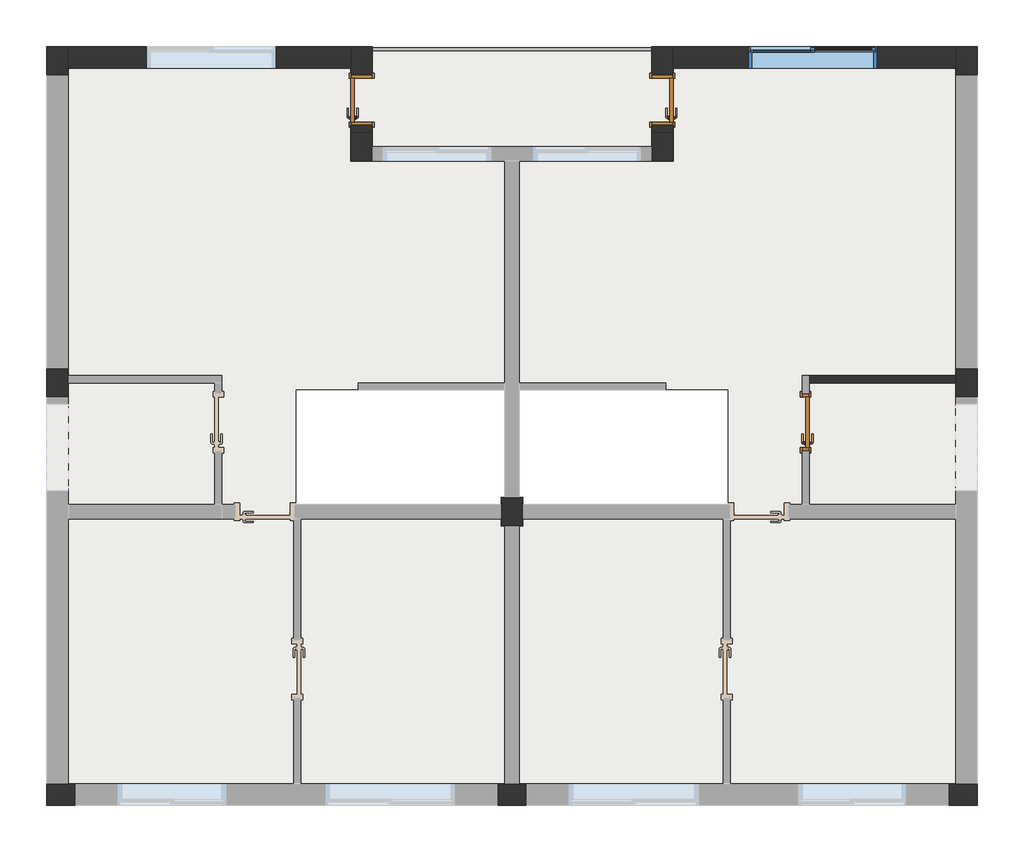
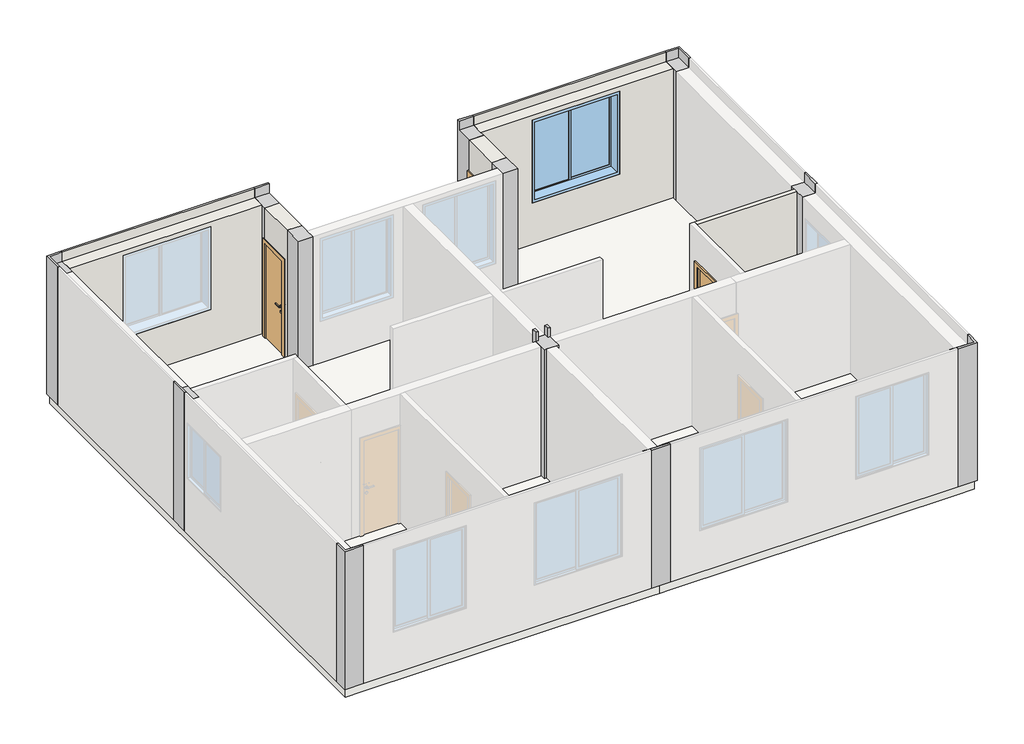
# One storey, part 2 of 2: 12 columns, 5 walls, 3 doors, 1 railing, 1 slab, 1 window.
"""IFC4 building model written with IfcOpenShell, lengths in millimetres."""

from ifc_helpers import new_model, si_unit, point, frame, frame_2d, origin, place, context, project, spatial, polyline, circle_curve, trimmed, segment, composite_curve, outline, extrude, faceted_brep, transform, mapped, element, save
from components import m1_5c1b1160, m4_53e74651, m4_2c85f747, c3_8dbe8f69

model = new_model("IFC4")

# Units and contexts
model_context = context("Model", 3, world=origin())
ifc_project = project(units=[si_unit("LENGTHUNIT", "METRE", prefix="MILLI")], contexts=[model_context])

# Site, building, storey
site = spatial("IfcSite", under=ifc_project)
building = spatial("IfcBuilding", under=site)
storey = spatial("IfcBuildingStorey", under=building, Name="标高 2", Elevation=3000.0)

# Columns
placement = place(None, origin())
element("IfcColumn", 1, ObjectType="混凝土 - 矩形 - 柱 : Z1", at=placement, inside=storey, context=model_context, shape_type="Brep", body=[
    faceted_brep([(-8339.5311174, -4969.5294667, 3000.0), (-8039.5311174, -4969.5294667, 3000.0), (-7939.5311174, -4969.5294667, 3000.0), (-7939.5311174, -5269.5294667, 3000.0), (-8339.5311174, -5269.5294667, 3000.0), (-8339.5311174, -4969.5294667, 6000.0), (-8299.5311174, -4969.5294667, 6000.0), (-8299.5311174, -4969.5294667, 5800.0), (-8039.5311174, -4969.5294667, 5800.0), (-7939.5311174, -4969.5294667, 5800.0), (-7939.5311174, -5229.5294667, 5800.0), (-7939.5311174, -5229.5294667, 6000.0), (-7939.5311174, -5269.5294667, 6000.0), (-8339.5311174, -5269.5294667, 6000.0), (-8299.5311174, -5229.5294667, 6000.0), (-8299.5311174, -5229.5294667, 5800.0)], [[[0, 1, 2, 3, 4]], [[2, 1, 0, 5, 6, 7, 8, 9]], [[3, 2, 9, 10, 11, 12]], [[4, 3, 12, 13]], [[0, 4, 13, 5]], [[13, 12, 11, 14, 6, 5]], [[7, 15, 10, 9, 8]], [[15, 14, 11, 10]], [[14, 15, 7, 6]]]),
])
element("IfcColumn", 2, ObjectType="混凝土 - 矩形 - 柱 : Z1", at=placement, inside=storey, context=model_context, shape_type="Brep", body=[
    faceted_brep([(-8039.5311174, 5330.4705333, 3000.0), (-8039.5311174, 4930.4705333, 3000.0), (-8339.5311174, 4930.4705333, 3000.0), (-8339.5311174, 5330.4705333, 3000.0), (-8039.5311174, 5330.4705333, 6000.0), (-8039.5311174, 5290.4705333, 6000.0), (-8039.5311174, 5290.4705333, 5800.0), (-8039.5311174, 4930.4705333, 5800.0), (-8299.5311174, 4930.4705333, 5800.0), (-8299.5311174, 4930.4705333, 6000.0), (-8339.5311174, 4930.4705333, 6000.0), (-8339.5311174, 5330.4705333, 6000.0), (-8299.5311174, 5290.4705333, 6000.0), (-8299.5311174, 5290.4705333, 5800.0)], [[[0, 1, 2, 3]], [[1, 0, 4, 5, 6, 7]], [[2, 1, 7, 8, 9, 10]], [[3, 2, 10, 11]], [[0, 3, 11, 4]], [[11, 10, 9, 12, 5, 4]], [[13, 8, 7, 6]], [[12, 13, 6, 5]], [[13, 12, 9, 8]]]),
])
element("IfcColumn", 3, ObjectType="混凝土 - 矩形 - 柱 : Z1", at=placement, inside=storey, context=model_context, shape_type="Brep", body=[
    faceted_brep([(-3789.5311174, 5330.4705333, 3000.0), (-3789.5311174, 4930.4705333, 3000.0), (-4089.5311174, 4930.4705333, 3000.0), (-4089.5311174, 5030.4705333, 3000.0), (-4089.5311174, 5330.4705333, 3000.0), (-3789.5311174, 5330.4705333, 6000.0), (-3789.5311174, 5290.4705333, 6000.0), (-3789.5311174, 5290.4705333, 5800.0), (-3789.5311174, 4930.4705333, 5800.0), (-3789.5311174, 4930.4705333, 5100.0), (-4089.5311174, 4930.4705333, 5800.0), (-4089.5311174, 4930.4705333, 5100.0), (-4089.5311174, 5030.4705333, 5800.0), (-4089.5311174, 5290.4705333, 5800.0), (-4089.5311174, 5290.4705333, 6000.0), (-4089.5311174, 5330.4705333, 6000.0)], [[[0, 1, 2, 3, 4]], [[1, 0, 5, 6, 7, 8, 9]], [[2, 1, 9, 8, 10, 11]], [[4, 3, 2, 11, 10, 12, 13, 14, 15]], [[0, 4, 15, 5]], [[5, 15, 14, 6]], [[7, 13, 12, 10, 8]], [[13, 7, 6, 14]]]),
])
element("IfcColumn", 4, ObjectType="混凝土 - 矩形 - 柱 : Z1", at=placement, inside=storey, context=model_context, shape_type="SweptSolid", body=[
    extrude(outline(polyline([(-3789.5311174, 4130.4705333), (-3789.5311174, 3730.4705333), (-4089.5311174, 3730.4705333), (-4089.5311174, 4130.4705333), (-3789.5311174, 4130.4705333)])), frame((0.0, 0.0, 3000.0), z_axis=(0.0, 0.0, 1.0), x_axis=(1.0, 0.0, 0.0)), (0.0, 0.0, 1.0), 2800.0),
])
element("IfcColumn", 5, ObjectType="混凝土 - 矩形 - 柱 : Z1", at=placement, inside=storey, context=model_context, shape_type="SweptSolid", body=[
    extrude(outline(polyline([(3000.0, -8339.5311174), (3000.0, -8039.5311174), (5800.0, -8039.5311174), (5800.0, -8299.5311174), (6000.0, -8299.5311174), (6000.0, -8339.5311174), (3000.0, -8339.5311174)])), frame((0.0, 430.4705333, 0.0), z_axis=(0.0, 1.0, 0.0), x_axis=(0.0, 0.0, 1.0)), (0.0, 0.0, 1.0), 400.0),
])
element("IfcColumn", 6, ObjectType="混凝土 - 矩形 - 柱 : Z1", at=placement, inside=storey, context=model_context, shape_type="Brep", body=[
    faceted_brep([(-1689.5311174, -969.5294667, 3000.0), (-1689.5311174, -1069.5294667, 3000.0), (-1689.5311174, -1269.5294667, 3000.0), (-1689.5311174, -1369.5294667, 3000.0), (-1739.5311174, -1369.5294667, 3000.0), (-1939.5311174, -1369.5294667, 3000.0), (-1989.5311174, -1369.5294667, 3000.0), (-1989.5311174, -1269.5294667, 3000.0), (-1989.5311174, -1069.5294667, 3000.0), (-1989.5311174, -969.5294667, 3000.0), (-1939.5311174, -969.5294667, 3000.0), (-1739.5311174, -969.5294667, 3000.0), (-1689.5311174, -969.5294667, 6000.0), (-1689.5311174, -1069.5294667, 6000.0), (-1689.5311174, -1069.5294667, 5800.0), (-1689.5311174, -1269.5294667, 5800.0), (-1689.5311174, -1369.5294667, 5800.0), (-1739.5311174, -1369.5294667, 5800.0), (-1939.5311174, -1369.5294667, 5800.0), (-1989.5311174, -1369.5294667, 5800.0), (-1989.5311174, -1269.5294667, 5800.0), (-1989.5311174, -1069.5294667, 5800.0), (-1989.5311174, -1069.5294667, 6000.0), (-1989.5311174, -969.5294667, 6000.0), (-1939.5311174, -969.5294667, 6000.0), (-1939.5311174, -969.5294667, 5800.0), (-1739.5311174, -969.5294667, 5800.0), (-1739.5311174, -969.5294667, 6000.0), (-1739.5311174, -1069.5294667, 6000.0), (-1939.5311174, -1069.5294667, 5800.0), (-1739.5311174, -1069.5294667, 5800.0), (-1939.5311174, -1069.5294667, 6000.0)], [[[0, 1, 2, 3, 4, 5, 6, 7, 8, 9, 10, 11]], [[3, 2, 1, 0, 12, 13, 14, 15, 16]], [[6, 5, 4, 3, 16, 17, 18, 19]], [[9, 8, 7, 6, 19, 20, 21, 22, 23]], [[0, 11, 10, 9, 23, 24, 25, 26, 27, 12]], [[12, 27, 28, 13]], [[25, 29, 21, 20, 19, 18, 17, 16, 15, 14, 30, 26]], [[29, 31, 22, 21]], [[31, 29, 25, 24]], [[30, 28, 27, 26]], [[28, 30, 14, 13]], [[24, 23, 22, 31]]]),
])
element("IfcColumn", 7, ObjectType="混凝土 - 矩形 - 柱 : Z1", at=placement, inside=storey, context=model_context, shape_type="Brep", body=[
    faceted_brep([(-2039.5311174, -4969.5294667, 3000.0), (-1939.5311174, -4969.5294667, 3000.0), (-1739.5311174, -4969.5294667, 3000.0), (-1639.5311174, -4969.5294667, 3000.0), (-1639.5311174, -5269.5294667, 3000.0), (-2039.5311174, -5269.5294667, 3000.0), (-2039.5311174, -4969.5294667, 5800.0), (-1939.5311174, -4969.5294667, 5800.0), (-1739.5311174, -4969.5294667, 5800.0), (-1639.5311174, -4969.5294667, 5800.0), (-1639.5311174, -5229.5294667, 5800.0), (-1639.5311174, -5229.5294667, 6000.0), (-1639.5311174, -5269.5294667, 6000.0), (-2039.5311174, -5269.5294667, 6000.0), (-2039.5311174, -5229.5294667, 6000.0), (-2039.5311174, -5229.5294667, 5800.0), (-1839.5311174, -5229.5294667, 6000.0), (-1839.5311174, -5229.5294667, 5800.0)], [[[0, 1, 2, 3, 4, 5]], [[3, 2, 1, 0, 6, 7, 8, 9]], [[4, 3, 9, 10, 11, 12]], [[5, 4, 12, 13]], [[0, 5, 13, 14, 15, 6]], [[13, 12, 11, 16, 14]], [[15, 17, 10, 9, 8, 7, 6]], [[17, 16, 11, 10]], [[16, 17, 15, 14]]]),
])
element("IfcColumn", 8, ObjectType="混凝土 - 矩形 - 柱 : Z1", at=placement, inside=storey, context=model_context, shape_type="Brep", body=[
    faceted_brep([(4660.4688826, -4969.5294667, 3000.0), (4660.4688826, -5269.5294667, 3000.0), (4260.4688826, -5269.5294667, 3000.0), (4260.4688826, -4969.5294667, 3000.0), (4360.4688826, -4969.5294667, 3000.0), (4260.4688826, -4969.5294667, 5800.0), (4360.4688826, -4969.5294667, 5800.0), (4620.4688826, -4969.5294667, 5800.0), (4620.4688826, -4969.5294667, 6000.0), (4660.4688826, -4969.5294667, 6000.0), (4260.4688826, -5269.5294667, 6000.0), (4260.4688826, -5229.5294667, 6000.0), (4260.4688826, -5229.5294667, 5800.0), (4660.4688826, -5269.5294667, 6000.0), (4620.4688826, -5229.5294667, 6000.0), (4620.4688826, -5229.5294667, 5800.0)], [[[0, 1, 2, 3, 4]], [[0, 4, 3, 5, 6, 7, 8, 9]], [[3, 2, 10, 11, 12, 5]], [[2, 1, 13, 10]], [[1, 0, 9, 13]], [[10, 13, 9, 8, 14, 11]], [[12, 15, 7, 6, 5]], [[15, 14, 8, 7]], [[14, 15, 12, 11]]]),
])
element("IfcColumn", 9, ObjectType="混凝土 - 矩形 - 柱 : Z1", at=placement, inside=storey, context=model_context, shape_type="Brep", body=[
    faceted_brep([(4360.4688826, 5330.4705333, 3000.0), (4660.4688826, 5330.4705333, 3000.0), (4660.4688826, 4930.4705333, 3000.0), (4360.4688826, 4930.4705333, 3000.0), (4360.4688826, 4930.4705333, 5800.0), (4360.4688826, 5290.4705333, 5800.0), (4360.4688826, 5290.4705333, 6000.0), (4360.4688826, 5330.4705333, 6000.0), (4660.4688826, 4930.4705333, 6000.0), (4620.4688826, 4930.4705333, 6000.0), (4620.4688826, 4930.4705333, 5800.0), (4660.4688826, 5330.4705333, 6000.0), (4620.4688826, 5290.4705333, 6000.0), (4620.4688826, 5290.4705333, 5800.0)], [[[0, 1, 2, 3]], [[0, 3, 4, 5, 6, 7]], [[3, 2, 8, 9, 10, 4]], [[2, 1, 11, 8]], [[1, 0, 7, 11]], [[8, 11, 7, 6, 12, 9]], [[10, 13, 5, 4]], [[13, 12, 6, 5]], [[12, 13, 10, 9]]]),
])
element("IfcColumn", 10, ObjectType="混凝土 - 矩形 - 柱 : Z1", at=placement, inside=storey, context=model_context, shape_type="Brep", body=[
    faceted_brep([(110.4688826, 5330.4705333, 3000.0), (410.4688826, 5330.4705333, 3000.0), (410.4688826, 5030.4705333, 3000.0), (410.4688826, 4930.4705333, 3000.0), (110.4688826, 4930.4705333, 3000.0), (110.4688826, 4930.4705333, 5100.0), (110.4688826, 4930.4705333, 5800.0), (110.4688826, 5290.4705333, 5800.0), (110.4688826, 5290.4705333, 6000.0), (110.4688826, 5330.4705333, 6000.0), (410.4688826, 4930.4705333, 5100.0), (410.4688826, 4930.4705333, 5800.0), (410.4688826, 5330.4705333, 6000.0), (410.4688826, 5290.4705333, 6000.0), (410.4688826, 5290.4705333, 5800.0), (410.4688826, 5030.4705333, 5800.0)], [[[0, 1, 2, 3, 4]], [[0, 4, 5, 6, 7, 8, 9]], [[4, 3, 10, 11, 6, 5]], [[3, 2, 1, 12, 13, 14, 15, 11, 10]], [[1, 0, 9, 12]], [[12, 9, 8, 13]], [[14, 7, 6, 11, 15]], [[7, 14, 13, 8]]]),
])
element("IfcColumn", 11, ObjectType="混凝土 - 矩形 - 柱 : Z1", at=placement, inside=storey, context=model_context, shape_type="Brep", body=[
    faceted_brep([(110.4688826, 4130.4705333, 3000.0), (410.4688826, 4130.4705333, 3000.0), (410.4688826, 3730.4705333, 3000.0), (110.4688826, 3730.4705333, 3000.0), (110.4688826, 3930.4705333, 3000.0), (110.4688826, 3730.4705333, 5800.0), (110.4688826, 3930.4705333, 5800.0), (110.4688826, 4130.4705333, 5800.0), (410.4688826, 3730.4705333, 5800.0), (410.4688826, 4130.4705333, 5800.0)], [[[0, 1, 2, 3, 4]], [[0, 4, 3, 5, 6, 7]], [[3, 2, 8, 5]], [[2, 1, 9, 8]], [[1, 0, 7, 9]], [[7, 6, 5, 8, 9]]]),
])
element("IfcColumn", 12, ObjectType="混凝土 - 矩形 - 柱 : Z1", at=placement, inside=storey, context=model_context, shape_type="Brep", body=[
    faceted_brep([(4360.4688826, 830.4705333, 3000.0), (4660.4688826, 830.4705333, 3000.0), (4660.4688826, 430.4705333, 3000.0), (4360.4688826, 430.4705333, 3000.0), (4360.4688826, 630.4705333, 3000.0), (4360.4688826, 730.4705333, 3000.0), (4360.4688826, 430.4705333, 5800.0), (4360.4688826, 630.4705333, 5800.0), (4360.4688826, 730.4705333, 5800.0), (4360.4688826, 830.4705333, 5800.0), (4660.4688826, 430.4705333, 6000.0), (4620.4688826, 430.4705333, 6000.0), (4620.4688826, 430.4705333, 5800.0), (4660.4688826, 830.4705333, 6000.0), (4620.4688826, 830.4705333, 5800.0), (4620.4688826, 830.4705333, 6000.0)], [[[0, 1, 2, 3, 4, 5]], [[0, 5, 4, 3, 6, 7, 8, 9]], [[3, 2, 10, 11, 12, 6]], [[2, 1, 13, 10]], [[1, 0, 9, 14, 15, 13]], [[10, 13, 15, 11]], [[12, 14, 9, 8, 7, 6]], [[14, 12, 11, 15]]]),
])

# Doors
m1_shape = m1_5c1b1160(model_context)
element("IfcDoor", 13, ObjectType="单嵌板木门 1 : M1", at=placement, inside=storey, context=model_context, shape_type="MappedRepresentation", body=[
    mapped(m1_shape, transform((2260.4688826, 80.4705333, 3000.0), x_axis=(0.0, 1.0, 0.0), y_axis=(-1.0, 0.0, 0.0), z_axis=(0.0, 0.0, 1.0))),
])
m4_shape = m4_53e74651(model_context)
element("IfcDoor", 14, ObjectType="单嵌板木门 1 : M4", at=placement, inside=storey, context=model_context, shape_type="MappedRepresentation", body=[
    mapped(m4_shape, transform((-3939.5311174, 4580.4705333, 3000.0), x_axis=(0.0, 1.0, 0.0), y_axis=(-1.0, 0.0, 0.0), z_axis=(0.0, 0.0, 1.0))),
])
m4_2_shape = m4_2c85f747(model_context)
element("IfcDoor", 15, ObjectType="单嵌板木门 1 : M4", at=placement, inside=storey, context=model_context, shape_type="MappedRepresentation", body=[
    mapped(m4_2_shape, transform((260.4688826, 4580.4705333, 3000.0), x_axis=(0.0, 1.0, 0.0), y_axis=(-1.0, 0.0, 0.0), z_axis=(0.0, 0.0, 1.0))),
])

# Railing
element("IfcRailing", 16, ObjectType="900mm 圆管", at=placement, inside=storey, context=model_context, shape_type="SweptSolid", body=[
    extrude(outline(composite_curve([segment(trimmed(circle_curve(frame_2d((5290.4705333, 3880.0)), 20.0), [point((5270.4705333, 3880.0))], [point((5310.4705333, 3880.0))], False, "CARTESIAN"), True, "CONTINUOUS"), segment(trimmed(circle_curve(frame_2d((5290.4705333, 3880.0)), 20.0), [point((5310.4705333, 3880.0))], [point((5270.4705333, 3880.0))], False, "CARTESIAN"), True, "CONTINUOUS")], self_intersect=False)), frame((-3789.5311174, 0.0, 0.0), z_axis=(1.0, 0.0, 0.0), x_axis=(0.0, 1.0, 0.0)), (0.0, 0.0, 1.0), 3900.0),
    extrude(outline(composite_curve([segment(trimmed(circle_curve(frame_2d((5290.4705333, 3685.0)), 15.0), [point((5305.4705333, 3685.0))], [point((5275.4705333, 3685.0))], False, "CARTESIAN"), True, "CONTINUOUS"), segment(trimmed(circle_curve(frame_2d((5290.4705333, 3685.0)), 15.0), [point((5275.4705333, 3685.0))], [point((5305.4705333, 3685.0))], False, "CARTESIAN"), True, "CONTINUOUS")], self_intersect=False)), frame((-3789.5311174, 0.0, 0.0), z_axis=(1.0, 0.0, 0.0), x_axis=(0.0, 1.0, 0.0)), (0.0, 0.0, 1.0), 3900.0),
    extrude(outline(composite_curve([segment(trimmed(circle_curve(frame_2d((5290.4705333, 3485.0)), 15.0), [point((5305.4705333, 3485.0))], [point((5275.4705333, 3485.0))], False, "CARTESIAN"), True, "CONTINUOUS"), segment(trimmed(circle_curve(frame_2d((5290.4705333, 3485.0)), 15.0), [point((5275.4705333, 3485.0))], [point((5305.4705333, 3485.0))], False, "CARTESIAN"), True, "CONTINUOUS")], self_intersect=False)), frame((-3789.5311174, 0.0, 0.0), z_axis=(1.0, 0.0, 0.0), x_axis=(0.0, 1.0, 0.0)), (0.0, 0.0, 1.0), 3900.0),
    extrude(outline(composite_curve([segment(trimmed(circle_curve(frame_2d((5290.4705333, 3285.0)), 15.0), [point((5305.4705333, 3285.0))], [point((5275.4705333, 3285.0))], False, "CARTESIAN"), True, "CONTINUOUS"), segment(trimmed(circle_curve(frame_2d((5290.4705333, 3285.0)), 15.0), [point((5275.4705333, 3285.0))], [point((5305.4705333, 3285.0))], False, "CARTESIAN"), True, "CONTINUOUS")], self_intersect=False)), frame((-3789.5311174, 0.0, 0.0), z_axis=(1.0, 0.0, 0.0), x_axis=(0.0, 1.0, 0.0)), (0.0, 0.0, 1.0), 3900.0),
    extrude(outline(composite_curve([segment(trimmed(circle_curve(frame_2d((5290.4705333, 3085.0)), 15.0), [point((5305.4705333, 3085.0))], [point((5275.4705333, 3085.0))], False, "CARTESIAN"), True, "CONTINUOUS"), segment(trimmed(circle_curve(frame_2d((5290.4705333, 3085.0)), 15.0), [point((5275.4705333, 3085.0))], [point((5305.4705333, 3085.0))], False, "CARTESIAN"), True, "CONTINUOUS")], self_intersect=False)), frame((-3789.5311174, 0.0, 0.0), z_axis=(1.0, 0.0, 0.0), x_axis=(0.0, 1.0, 0.0)), (0.0, 0.0, 1.0), 3900.0),
    extrude(outline(composite_curve([segment(trimmed(circle_curve(frame_2d((-789.5311174, 5290.4705333)), 12.5), [point((-789.5311174, 5302.9705333))], [point((-789.5311174, 5277.9705333))], False, "CARTESIAN"), True, "CONTINUOUS"), segment(trimmed(circle_curve(frame_2d((-789.5311174, 5290.4705333)), 12.5), [point((-789.5311174, 5277.9705333))], [point((-789.5311174, 5302.9705333))], False, "CARTESIAN"), True, "CONTINUOUS")], self_intersect=False)), frame((0.0, 0.0, 3000.0), z_axis=(0.0, 0.0, 1.0), x_axis=(1.0, 0.0, 0.0)), (0.0, 0.0, 1.0), 860.0),
    extrude(outline(composite_curve([segment(trimmed(circle_curve(frame_2d((-1789.5311174, 5290.4705333)), 12.5), [point((-1789.5311174, 5302.9705333))], [point((-1789.5311174, 5277.9705333))], False, "CARTESIAN"), True, "CONTINUOUS"), segment(trimmed(circle_curve(frame_2d((-1789.5311174, 5290.4705333)), 12.5), [point((-1789.5311174, 5277.9705333))], [point((-1789.5311174, 5302.9705333))], False, "CARTESIAN"), True, "CONTINUOUS")], self_intersect=False)), frame((0.0, 0.0, 3000.0), z_axis=(0.0, 0.0, 1.0), x_axis=(1.0, 0.0, 0.0)), (0.0, 0.0, 1.0), 860.0),
    extrude(outline(composite_curve([segment(trimmed(circle_curve(frame_2d((-2789.5311174, 5290.4705333)), 12.5), [point((-2789.5311174, 5302.9705333))], [point((-2789.5311174, 5277.9705333))], False, "CARTESIAN"), True, "CONTINUOUS"), segment(trimmed(circle_curve(frame_2d((-2789.5311174, 5290.4705333)), 12.5), [point((-2789.5311174, 5277.9705333))], [point((-2789.5311174, 5302.9705333))], False, "CARTESIAN"), True, "CONTINUOUS")], self_intersect=False)), frame((0.0, 0.0, 3000.0), z_axis=(0.0, 0.0, 1.0), x_axis=(1.0, 0.0, 0.0)), (0.0, 0.0, 1.0), 860.0),
    extrude(outline(composite_curve([segment(trimmed(circle_curve(frame_2d((97.9688826, 5290.4705333)), 12.5), [point((97.9688826, 5302.9705333))], [point((97.9688826, 5277.9705333))], False, "CARTESIAN"), True, "CONTINUOUS"), segment(trimmed(circle_curve(frame_2d((97.9688826, 5290.4705333)), 12.5), [point((97.9688826, 5277.9705333))], [point((97.9688826, 5302.9705333))], False, "CARTESIAN"), True, "CONTINUOUS")], self_intersect=False)), frame((0.0, 0.0, 3000.0), z_axis=(0.0, 0.0, 1.0), x_axis=(1.0, 0.0, 0.0)), (0.0, 0.0, 1.0), 860.0),
    extrude(outline(composite_curve([segment(trimmed(circle_curve(frame_2d((-3777.0311174, 5290.4705333)), 12.5), [point((-3777.0311174, 5302.9705333))], [point((-3777.0311174, 5277.9705333))], False, "CARTESIAN"), True, "CONTINUOUS"), segment(trimmed(circle_curve(frame_2d((-3777.0311174, 5290.4705333)), 12.5), [point((-3777.0311174, 5277.9705333))], [point((-3777.0311174, 5302.9705333))], False, "CARTESIAN"), True, "CONTINUOUS")], self_intersect=False)), frame((0.0, 0.0, 3000.0), z_axis=(0.0, 0.0, 1.0), x_axis=(1.0, 0.0, 0.0)), (0.0, 0.0, 1.0), 860.0),
])

# Slab
element("IfcSlab", 17, ObjectType="200大理石地板", at=placement, inside=storey, context=model_context, shape_type="Brep", body=[
    faceted_brep([(-8299.5311174, 5290.4705333, 2800.0), (-4089.5311174, 5290.4705333, 2800.0), (-3789.5311174, 5290.4705333, 2800.0), (-1839.5311174, 5290.4705333, 2800.0), (110.4688826, 5290.4705333, 2800.0), (410.4688826, 5290.4705333, 2800.0), (4360.4688826, 5290.4705333, 2800.0), (4620.4688826, 5290.4705333, 2800.0), (4620.4688826, 4930.4705333, 2800.0), (4620.4688826, 4130.4705333, 2800.0), (4620.4688826, 830.4705333, 2800.0), (4620.4688826, 430.4705333, 2800.0), (4620.4688826, -4969.5294667, 2800.0), (4620.4688826, -5229.5294667, 2800.0), (4260.4688826, -5229.5294667, 2800.0), (-1639.5311174, -5229.5294667, 2800.0), (-1839.5311174, -5229.5294667, 2800.0), (-2039.5311174, -5229.5294667, 2800.0), (-7939.5311174, -5229.5294667, 2800.0), (-8299.5311174, -5229.5294667, 2800.0), (-8299.5311174, -4969.5294667, 2800.0), (-8299.5311174, 430.4705333, 2800.0), (-8299.5311174, 830.4705333, 2800.0), (-8299.5311174, 4130.4705333, 2800.0), (-1939.5311174, 530.4705333, 2800.0), (-3939.5311174, 530.4705333, 2800.0), (-4039.5311174, 530.4705333, 2800.0), (-4854.5311174, 530.4705333, 2800.0), (-4854.5311174, -1069.5294667, 2800.0), (-3939.5311174, -1069.5294667, 2800.0), (-1989.5311174, -1069.5294667, 2800.0), (-1939.5311174, -1069.5294667, 2800.0), (-1939.5311174, -969.5294667, 2800.0), (-1739.5311174, 530.4705333, 2800.0), (-1739.5311174, -969.5294667, 2800.0), (-1739.5311174, -1069.5294667, 2800.0), (-1689.5311174, -1069.5294667, 2800.0), (260.4688826, -1069.5294667, 2800.0), (1175.4688826, -1069.5294667, 2800.0), (1175.4688826, 530.4705333, 2800.0), (360.4688826, 530.4705333, 2800.0), (260.4688826, 530.4705333, 2800.0), (-1839.5311174, 5290.4705333, 3000.0), (-3789.5311174, 5290.4705333, 3000.0), (-4089.5311174, 5290.4705333, 3000.0), (-8299.5311174, 5290.4705333, 3000.0), (-8299.5311174, 4130.4705333, 3000.0), (-8299.5311174, 830.4705333, 3000.0), (-8299.5311174, 430.4705333, 3000.0), (-8299.5311174, -4969.5294667, 3000.0), (-8299.5311174, -5229.5294667, 3000.0), (-7939.5311174, -5229.5294667, 3000.0), (-2039.5311174, -5229.5294667, 3000.0), (-1839.5311174, -5229.5294667, 3000.0), (-1639.5311174, -5229.5294667, 3000.0), (4260.4688826, -5229.5294667, 3000.0), (4620.4688826, -5229.5294667, 3000.0), (4620.4688826, -4969.5294667, 3000.0), (4620.4688826, 430.4705333, 3000.0), (4620.4688826, 830.4705333, 3000.0), (4620.4688826, 4130.4705333, 3000.0), (4620.4688826, 4930.4705333, 3000.0), (4620.4688826, 5290.4705333, 3000.0), (4360.4688826, 5290.4705333, 3000.0), (410.4688826, 5290.4705333, 3000.0), (110.4688826, 5290.4705333, 3000.0), (-4854.5311174, 530.4705333, 3000.0), (-1939.5311174, 530.4705333, 3000.0), (-1939.5311174, -969.5294667, 3000.0), (-1939.5311174, -1069.5294667, 3000.0), (-1989.5311174, -1069.5294667, 3000.0), (-4854.5311174, -1069.5294667, 3000.0), (-1739.5311174, -1069.5294667, 3000.0), (-1739.5311174, -969.5294667, 3000.0), (-1739.5311174, 530.4705333, 3000.0), (1175.4688826, 530.4705333, 3000.0), (1175.4688826, -1069.5294667, 3000.0), (-1689.5311174, -1069.5294667, 3000.0)], [[[0, 1, 2, 3, 4, 5, 6, 7, 8, 9, 10, 11, 12, 13, 14, 15, 16, 17, 18, 19, 20, 21, 22, 23], [24, 25, 26, 27, 28, 29, 30, 31, 32], [33, 34, 35, 36, 37, 38, 39, 40, 41]], [[42, 43, 44, 45, 46, 47, 48, 49, 50, 51, 52, 53, 54, 55, 56, 57, 58, 59, 60, 61, 62, 63, 64, 65], [66, 67, 68, 69, 70, 71], [72, 73, 74, 75, 76, 77]], [[3, 2, 1, 0, 45, 44, 43, 42]], [[7, 6, 5, 4, 3, 42, 65, 64, 63, 62]], [[13, 12, 11, 10, 9, 8, 7, 62, 61, 60, 59, 58, 57, 56]], [[16, 15, 14, 13, 56, 55, 54, 53]], [[19, 18, 17, 16, 53, 52, 51, 50]], [[0, 23, 22, 21, 20, 19, 50, 49, 48, 47, 46, 45]], [[24, 67, 66, 27, 26, 25]], [[27, 66, 71, 28]], [[28, 71, 70, 69, 31, 30, 29]], [[67, 24, 32, 31, 69, 68]], [[33, 74, 73, 72, 35, 34]], [[35, 72, 77, 76, 38, 37, 36]], [[38, 76, 75, 39]], [[74, 33, 41, 40, 39, 75]]]),
])

# Walls
element("IfcWall", 18, ObjectType="100内墙", at=placement, inside=storey, context=model_context, shape_type="SweptSolid", body=[
    extrude(outline(polyline([(4360.4688826, 630.4705333), (2310.4688826, 630.4705333), (2310.4688826, 730.4705333), (4360.4688826, 730.4705333), (4360.4688826, 630.4705333)])), frame((0.0, 0.0, 3000.0), z_axis=(0.0, 0.0, 1.0), x_axis=(1.0, 0.0, 0.0)), (0.0, 0.0, 1.0), 2800.0),
])
element("IfcWall", 19, ObjectType="300外墙", at=placement, inside=storey, context=model_context, shape_type="Brep", body=[
    faceted_brep([(-8039.5311174, 5030.4705333, 3000.0), (-4089.5311174, 5030.4705333, 3000.0), (-4089.5311174, 5030.4705333, 5800.0), (-8039.5311174, 5030.4705333, 5800.0), (-5139.5311174, 5030.4705333, 5700.0), (-5139.5311174, 5030.4705333, 3900.0), (-6939.5311174, 5030.4705333, 3900.0), (-6939.5311174, 5030.4705333, 5700.0), (-4089.5311174, 5330.4705333, 3000.0), (-8039.5311174, 5330.4705333, 3000.0), (-8039.5311174, 5330.4705333, 6000.0), (-4089.5311174, 5330.4705333, 6000.0), (-5139.5311174, 5330.4705333, 3900.0), (-5139.5311174, 5330.4705333, 5700.0), (-6939.5311174, 5330.4705333, 5700.0), (-6939.5311174, 5330.4705333, 3900.0), (-8039.5311174, 5290.4705333, 6000.0), (-4089.5311174, 5290.4705333, 6000.0), (-8039.5311174, 5290.4705333, 5800.0), (-4089.5311174, 5290.4705333, 5800.0)], [[[0, 1, 2, 3], [4, 5, 6, 7]], [[8, 9, 10, 11], [12, 13, 14, 15]], [[1, 0, 9, 8]], [[11, 10, 16, 17]], [[10, 9, 0, 3, 18, 16]], [[1, 8, 11, 17, 19, 2]], [[5, 4, 13, 12]], [[6, 5, 12, 15]], [[7, 6, 15, 14]], [[4, 7, 14, 13]], [[19, 18, 3, 2]], [[18, 19, 17, 16]]]),
])
element("IfcWall", 20, ObjectType="300外墙", at=placement, inside=storey, context=model_context, shape_type="Brep", body=[
    faceted_brep([(410.4688826, 5030.4705333, 3000.0), (4360.4688826, 5030.4705333, 3000.0), (4360.4688826, 5030.4705333, 5800.0), (410.4688826, 5030.4705333, 5800.0), (1460.4688826, 5030.4705333, 3900.0), (1460.4688826, 5030.4705333, 5700.0), (3260.4688826, 5030.4705333, 5700.0), (3260.4688826, 5030.4705333, 3900.0), (4360.4688826, 5330.4705333, 3000.0), (410.4688826, 5330.4705333, 3000.0), (410.4688826, 5330.4705333, 6000.0), (4360.4688826, 5330.4705333, 6000.0), (1460.4688826, 5330.4705333, 5700.0), (1460.4688826, 5330.4705333, 3900.0), (3260.4688826, 5330.4705333, 3900.0), (3260.4688826, 5330.4705333, 5700.0), (4360.4688826, 5290.4705333, 6000.0), (4360.4688826, 5290.4705333, 5800.0), (410.4688826, 5290.4705333, 6000.0), (410.4688826, 5290.4705333, 5800.0)], [[[0, 1, 2, 3], [4, 5, 6, 7]], [[8, 9, 10, 11], [12, 13, 14, 15]], [[1, 0, 9, 8]], [[8, 11, 16, 17, 2, 1]], [[11, 10, 18, 16]], [[10, 9, 0, 3, 19, 18]], [[13, 12, 5, 4]], [[14, 13, 4, 7]], [[15, 14, 7, 6]], [[12, 15, 6, 5]], [[17, 19, 3, 2]], [[19, 17, 16, 18]]]),
])
element("IfcWall", 21, ObjectType="300外墙", at=placement, inside=storey, context=model_context, shape_type="SweptSolid", body=[
    extrude(outline(polyline([(4930.4705333, 5100.0), (4230.4705333, 5100.0), (4230.4705333, 3000.0), (4130.4705333, 3000.0), (4130.4705333, 5800.0), (4930.4705333, 5800.0), (4930.4705333, 5100.0)])), frame((-4089.5311174, 0.0, 0.0), z_axis=(1.0, 0.0, 0.0), x_axis=(0.0, 1.0, 0.0)), (0.0, 0.0, 1.0), 300.0),
])
element("IfcWall", 22, ObjectType="300外墙", at=placement, inside=storey, context=model_context, shape_type="SweptSolid", body=[
    extrude(outline(polyline([(4930.4705333, 5100.0), (4230.4705333, 5100.0), (4230.4705333, 3000.0), (4130.4705333, 3000.0), (4130.4705333, 5800.0), (4930.4705333, 5800.0), (4930.4705333, 5100.0)])), frame((110.4688826, 0.0, 0.0), z_axis=(1.0, 0.0, 0.0), x_axis=(0.0, 1.0, 0.0)), (0.0, 0.0, 1.0), 300.0),
])

# Window
c3_shape = c3_8dbe8f69(model_context)
element("IfcWindow", 23, ObjectType="推拉窗6 : C3", at=placement, inside=storey, context=model_context, shape_type="MappedRepresentation", body=[
    mapped(c3_shape, transform((2369.9938826, 5247.3439708, 3000.0), x_axis=(-1.0, 0.0, 0.0), y_axis=(0.0, -1.0, 0.0), z_axis=(0.0, 0.0, 1.0))),
])

save(model, "model.ifc")
